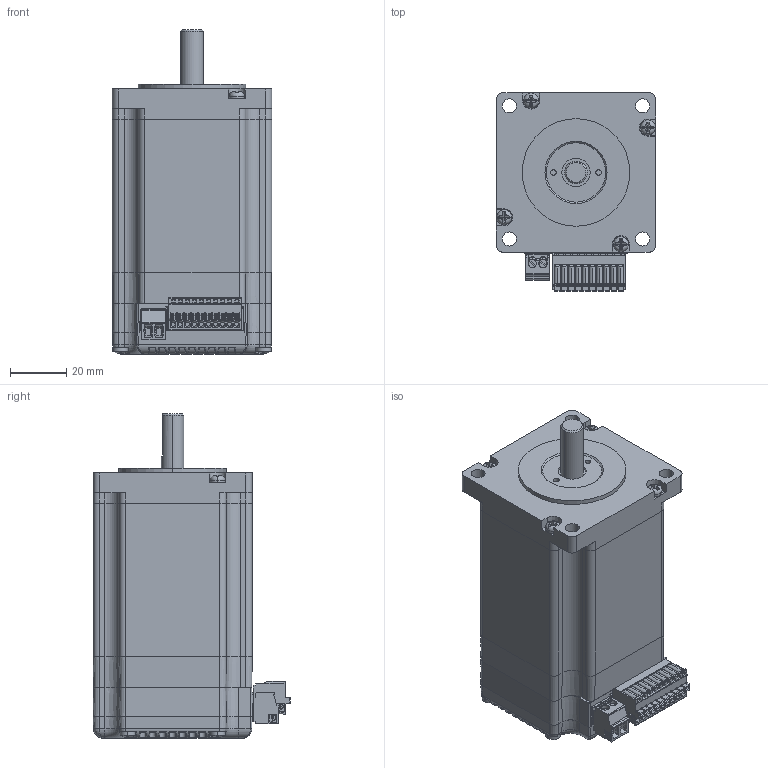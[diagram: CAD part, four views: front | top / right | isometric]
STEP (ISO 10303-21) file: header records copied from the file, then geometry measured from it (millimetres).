
FILE_DESCRIPTION (( 'STEP AP214' ), '1' );
FILE_NAME ('IG57E(T)(V)20.STEP', '2022-12-23T02:29:28', ( '' ), ( '' ), 'SwSTEP 2.0', 'SolidWorks 2022', '' );
FILE_SCHEMA (( 'AUTOMOTIVE_DESIGN' ));
Length unit declared in the file: millimetre
Products named in the file (5): 3.81x2p-GR-脣芛; IG57开环电机_装配体用; 傷赽脣芛; IG57驱动器; IG57E(T)(V)20
Assembly tree (4 placements, depth 2):
  IG57E(T)(V)20
    IG57开环电机_装配体用
    IG57驱动器
    傷赽脣芛
    3.81x2p-GR-脣芛
Bounding box: 56.4 x 70.1 x 115 mm (x, y, z)
Volume: 246893.5 mm3; surface area: 56819.4 mm2
Topology: 5 solids, 5 shells, 5004 faces, 13522 edges, 8641 vertices
Faces by surface type: plane 2962, cylinder 1227, bspline 410, cone 221, torus 126, sphere 58
Entity records: 229112 total; most frequent: CARTESIAN_POINT 58518, ORIENTED_EDGE 26876, DIRECTION 23905, EDGE_CURVE 13438, VECTOR 9107, LINE 9107, VERTEX_POINT 8637, AXIS2_PLACEMENT_3D 7399
